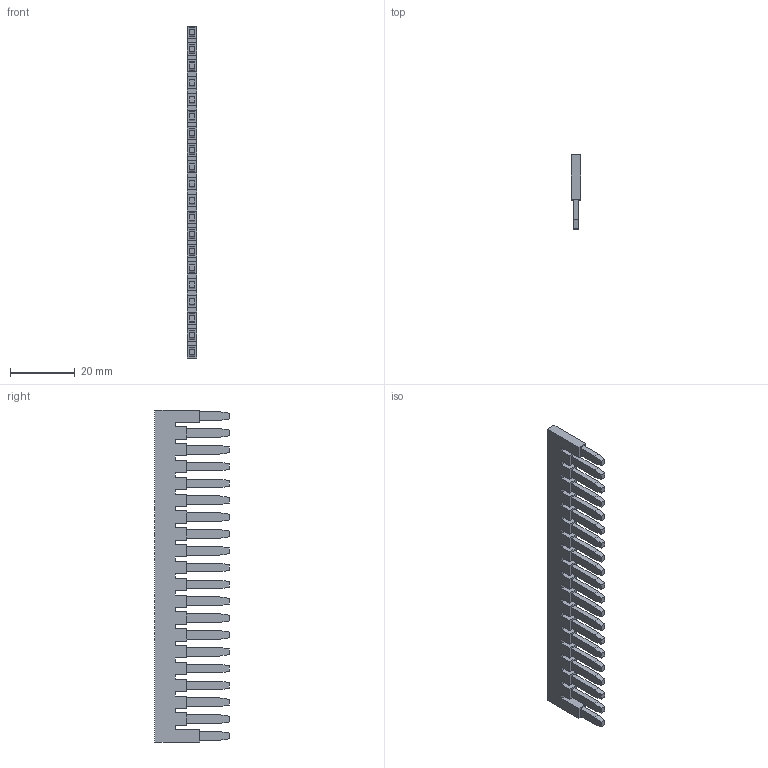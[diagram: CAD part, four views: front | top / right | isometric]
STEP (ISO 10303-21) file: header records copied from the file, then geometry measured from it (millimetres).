
FILE_DESCRIPTION(('SolidDesigner STEP Export'),'2;1');
FILE_NAME('3030226_FBS_20_5-select.stp','2017-05-30T 8:34:57',(''),(''),'Creo Elements/Direct Modeling STEP processor for AP214 (Solid Model)','Creo Elements/Direct Modeling 18.1G 27-Feb-2015 (C) Parametric Technology GmbH','');
FILE_SCHEMA(('AUTOMOTIVE_DESIGN { 1 0 10303 214 1 1 1 1 }'));
Length unit declared in the file: millimetre
Products named in the file (2): 3030226_FBS_20_5-select
Assembly tree (1 placements, depth 2):
  3030226_FBS_20_5-select
    3030226_FBS_20_5-select
Bounding box: 3 x 22.98 x 102.6 mm (x, y, z)
Volume: 3882.8 mm3; surface area: 5114.6 mm2
Topology: 1 solids, 1 shells, 222 faces, 600 edges, 400 vertices
Faces by surface type: plane 222
Entity records: 7980 total; most frequent: ORIENTED_EDGE 1200, CARTESIAN_POINT 1190, DIRECTION 981, EDGE_CURVE 600, VECTOR 599, LINE 599, VERTEX_POINT 400, EDGE_LOOP 242
